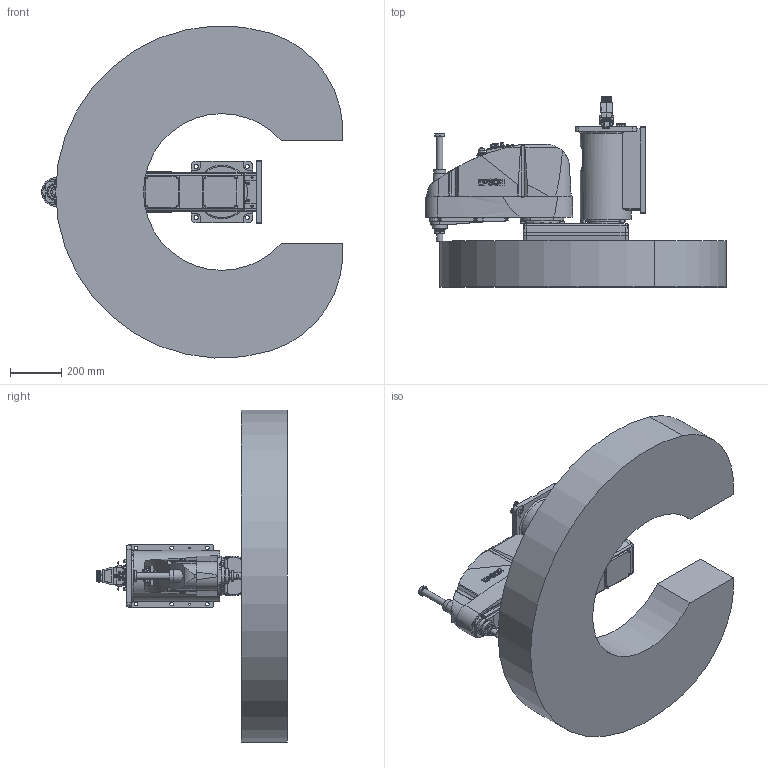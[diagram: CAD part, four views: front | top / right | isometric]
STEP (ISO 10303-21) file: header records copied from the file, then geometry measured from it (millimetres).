
FILE_DESCRIPTION( ( 'STEP AP214' ), '1' );
FILE_NAME( 'C:/Users/9607552/Desktop/GX10-B651SW_straight.stp', '2023-08-01T09:10:22', ( '' ), ( '' ), ' ', 'PARTsolutions', ' ' );
FILE_SCHEMA( ( 'AUTOMOTIVE_DESIGN { 1 0 10303 214 1 1 1 1 }' ) );
Length unit declared in the file: millimetre
Products named in the file (7): GX10-B651SWS-W; _Base sw; _Straight-B; _J1 Arm GX10-250 r/w; _J2 Arm GX10-s; _J3 Arm GX10-s (1); _GX10_20B-26_1
Assembly tree (6 placements, depth 2):
  GX10-B651SWS-W
    _Base sw
    _Straight-B
    _J1 Arm GX10-250 r/w
    _J2 Arm GX10-s
    _J3 Arm GX10-s (1)
    _GX10_20B-26_1
Bounding box: 1177.46 x 745.35 x 1298.81 mm (x, y, z)
Volume: 189509699.5 mm3; surface area: 4084124.7 mm2
Topology: 6 solids, 6 shells, 2557 faces, 6277 edges, 4098 vertices
Faces by surface type: plane 1324, cylinder 801, cone 334, torus 65, bspline 32, sphere 1
Full cylindrical faces by diameter (mm): 1 x24, 1.18 x55, 2.5 x2, 3 x32, 3.242 x10, 3.3 x4, 4.2 x4, 4.8 x4, 5.1 x4, 5.25 x2, 5.34 x8, 5.4 x5, 5.5 x16, 6 x2, 6.2 x4, 6.647 x2, 6.8 x2, 7 x23, 7.59 x8, 8 x9, 8.5 x2, 9 x4, 10 x32, 11 x14, 12 x6, 12.25 x1, 13 x8, 14 x20, 14.25 x1, 16 x6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
Entity records: 96825 total; most frequent: CARTESIAN_POINT 18295, DIRECTION 11984, ORIENTED_EDGE 11136, EDGE_CURVE 5568, AXIS2_PLACEMENT_3D 4612, VERTEX_POINT 4005, EDGE_LOOP 3593, FACE_OUTER_BOUND 2952
